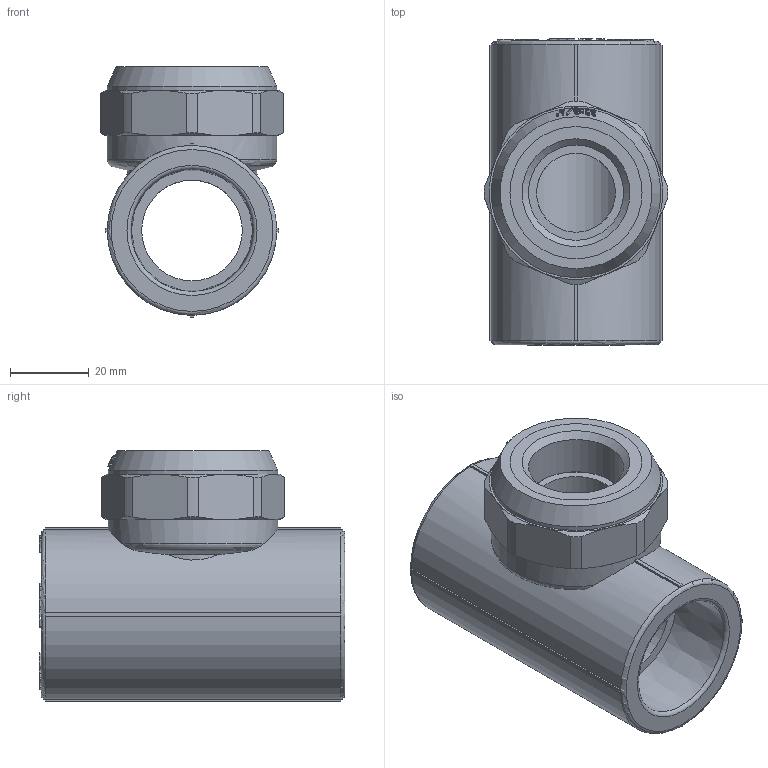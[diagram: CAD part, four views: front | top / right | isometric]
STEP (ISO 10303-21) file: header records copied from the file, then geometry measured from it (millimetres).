
FILE_DESCRIPTION(('STEP AP203'), '1');
FILE_NAME('ÂÐ.752241.039 - VTp.732.0.03205', '', ('UNSPECIFIED'), ('UNSPECIFIED'), 'C3D Converter', 'C3D Toolkit', '');
FILE_SCHEMA(('CONFIG_CONTROL_DESIGN'));
Length unit declared in the file: millimetre
Products named in the file (4): ВР.752241.039; ВР.302639.015.000; ВР.713661.002
Assembly tree (3 placements, depth 3):
  ВР.752241.039
    ВР.302639.015.000
      ВР.713661.002
      (unnamed)
Bounding box: 46.49 x 77.5 x 63.5 mm (x, y, z)
Volume: 86732.2 mm3; surface area: 32929.6 mm2
Topology: 3 solids, 3 shells, 919 faces, 2541 edges, 1683 vertices
Faces by surface type: extrusion 463, plane 376, cylinder 40, cone 29, torus 11
Full cylindrical faces by diameter (mm): 20 x1, 24.118 x2, 25.5 x1, 27 x2, 29.5 x8, 33.5 x10, 43 x2
Entity records: 33181 total; most frequent: CARTESIAN_POINT 11799, ORIENTED_EDGE 4938, DIRECTION 2968, EDGE_CURVE 2469, VECTOR 1684, VERTEX_POINT 1663, B_SPLINE_CURVE_WITH_KNOTS 1519, LINE 1221
